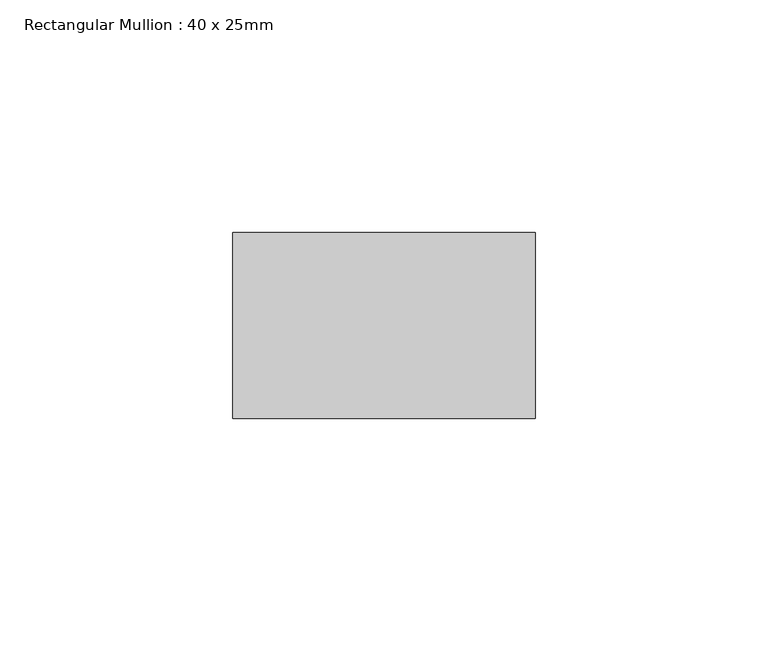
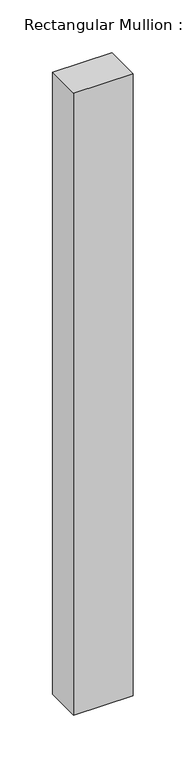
"""IFC4 building model written with IfcOpenShell, lengths in millimetres: member geometry, Rectangular Mullion : 40 x 25mm."""

from ifc_helpers import new_model, si_unit, frame, origin, place, context, project, spatial, polyline, outline, extrude, source, transform, mapped, element, save


def rectangular_mullion_40_x_25mm_eeb156e8(model_context):
    return source(origin(), model_context, "Body", "SweptSolid", [
        extrude(outline(polyline([(0.0, -20.0), (0.0, -60.0), (-65.0, -60.0), (-65.0, -20.0), (0.0, -20.0)])), frame((0.0, 0.0, -718.5855623), z_axis=(0.0, 0.0, 1.0), x_axis=(1.0, 0.0, 0.0)), (0.0, 0.0, 1.0), 718.5855623),
    ])


if __name__ == "__main__":
    model = new_model("IFC4")
    model_context = context("Model", 3, world=origin())
    ifc_project = project(units=[si_unit("LENGTHUNIT", "METRE", prefix="MILLI")], contexts=[model_context])
    site = spatial("IfcSite", under=ifc_project)
    building = spatial("IfcBuilding", under=site)
    placement = place(None, origin())
    rectangular_mullion_40_x_25mm_shape = rectangular_mullion_40_x_25mm_eeb156e8(model_context)
    element("IfcMember", 1, ObjectType="Rectangular Mullion : 40 x 25mm", at=placement, inside=building, context=model_context, shape_type="MappedRepresentation", body=[
        mapped(rectangular_mullion_40_x_25mm_shape, transform((0.0, 0.0, 0.0), x_axis=(1.0, 0.0, 0.0), y_axis=(0.0, 1.0, 0.0), z_axis=(0.0, 0.0, 1.0))),
    ])
    save(model, "model.ifc")
